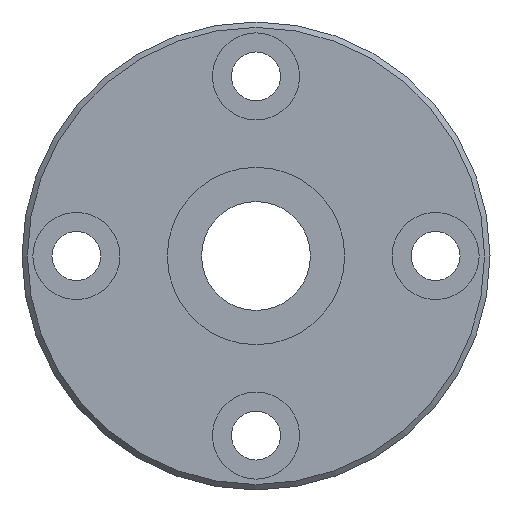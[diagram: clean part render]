
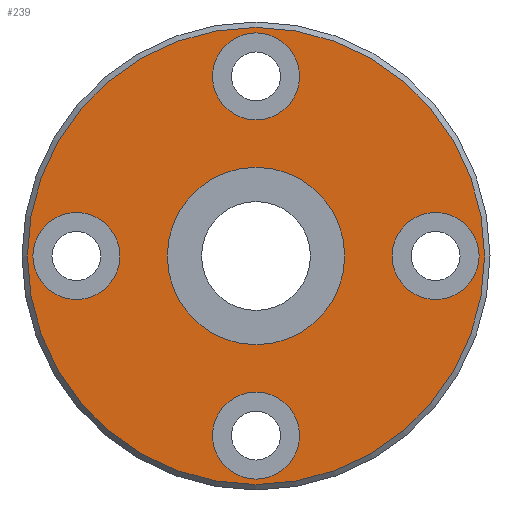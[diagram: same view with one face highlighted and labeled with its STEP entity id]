
A CAD part, left-side view. The second image highlights one B-rep face of the part: STEP entity #239.
In plain terms, the highlighted planar face has unit normal (-1, 0, 0).
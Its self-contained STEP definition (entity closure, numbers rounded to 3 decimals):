
#164=CARTESIAN_POINT('',(0.0,0.,21.0));
#165=VERTEX_POINT('',#164);
#166=CARTESIAN_POINT('',(0.0,0.0,0.0));
#167=DIRECTION('',(1.0,0.0,0.0));
#168=DIRECTION('',(0.0,0.0,-1.0));
#169=AXIS2_PLACEMENT_3D('',#166,#167,#168);
#170=CIRCLE('',#169,21.0);
#171=EDGE_CURVE('',#165,#165,#170,.T.);
#176=CARTESIAN_POINT('',(0.0,0.0,9.825));
#177=DIRECTION('',(-1.0,0.0,0.0));
#178=DIRECTION('',(0.0,0.0,1.0));
#179=AXIS2_PLACEMENT_3D('',#176,#177,#178);
#180=PLANE('',#179);
#181=ORIENTED_EDGE('',*,*,#171,.F.);
#182=EDGE_LOOP('',(#181));
#183=FACE_OUTER_BOUND('',#182,.T.);
#184=CARTESIAN_POINT('',(0.0,0.0,8.15));
#185=VERTEX_POINT('',#184);
#186=CARTESIAN_POINT('',(0.0,0.0,0.0));
#187=DIRECTION('',(-1.0,0.0,0.0));
#188=DIRECTION('',(0.0,0.0,1.0));
#189=AXIS2_PLACEMENT_3D('',#186,#187,#188);
#190=CIRCLE('',#189,8.15);
#191=EDGE_CURVE('',#185,#185,#190,.T.);
#192=ORIENTED_EDGE('',*,*,#191,.F.);
#193=EDGE_LOOP('',(#192));
#194=FACE_BOUND('',#193,.T.);
#195=CARTESIAN_POINT('',(0.0,-12.5,0.));
#196=VERTEX_POINT('',#195);
#197=CARTESIAN_POINT('',(0.0,-16.5,0.));
#198=DIRECTION('',(1.0,0.0,0.0));
#199=DIRECTION('',(0.0,1.0,0.0));
#200=AXIS2_PLACEMENT_3D('',#197,#198,#199);
#201=CIRCLE('',#200,4.0);
#202=EDGE_CURVE('',#196,#196,#201,.T.);
#203=ORIENTED_EDGE('',*,*,#202,.T.);
#204=EDGE_LOOP('',(#203));
#205=FACE_BOUND('',#204,.T.);
#206=CARTESIAN_POINT('',(0.0,20.5,0.));
#207=VERTEX_POINT('',#206);
#208=CARTESIAN_POINT('',(0.0,16.5,0.));
#209=DIRECTION('',(1.0,0.0,0.0));
#210=DIRECTION('',(0.0,1.0,0.0));
#211=AXIS2_PLACEMENT_3D('',#208,#209,#210);
#212=CIRCLE('',#211,4.0);
#213=EDGE_CURVE('',#207,#207,#212,.T.);
#214=ORIENTED_EDGE('',*,*,#213,.T.);
#215=EDGE_LOOP('',(#214));
#216=FACE_BOUND('',#215,.T.);
#217=CARTESIAN_POINT('',(0.0,4.,16.5));
#218=VERTEX_POINT('',#217);
#219=CARTESIAN_POINT('',(0.0,0.,16.5));
#220=DIRECTION('',(1.0,0.0,0.0));
#221=DIRECTION('',(0.0,1.0,0.0));
#222=AXIS2_PLACEMENT_3D('',#219,#220,#221);
#223=CIRCLE('',#222,4.0);
#224=EDGE_CURVE('',#218,#218,#223,.T.);
#225=ORIENTED_EDGE('',*,*,#224,.T.);
#226=EDGE_LOOP('',(#225));
#227=FACE_BOUND('',#226,.T.);
#228=CARTESIAN_POINT('',(0.0,4.,-16.5));
#229=VERTEX_POINT('',#228);
#230=CARTESIAN_POINT('',(0.0,0.,-16.5));
#231=DIRECTION('',(1.0,0.0,0.0));
#232=DIRECTION('',(0.0,1.0,0.0));
#233=AXIS2_PLACEMENT_3D('',#230,#231,#232);
#234=CIRCLE('',#233,4.0);
#235=EDGE_CURVE('',#229,#229,#234,.T.);
#236=ORIENTED_EDGE('',*,*,#235,.T.);
#237=EDGE_LOOP('',(#236));
#238=FACE_BOUND('',#237,.T.);
#239=ADVANCED_FACE('',(#183,#194,#205,#216,#227,#238),#180,.T.);
